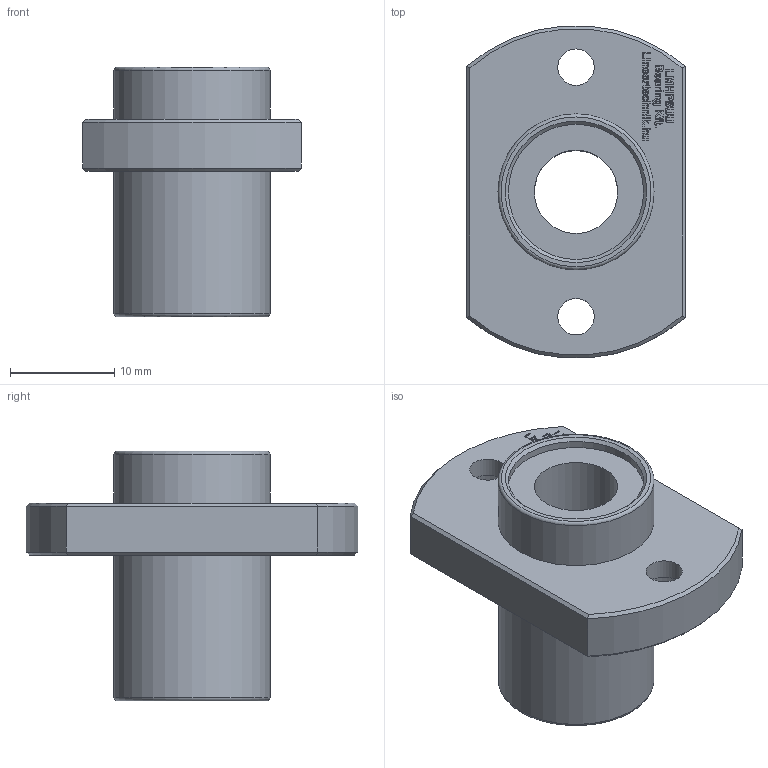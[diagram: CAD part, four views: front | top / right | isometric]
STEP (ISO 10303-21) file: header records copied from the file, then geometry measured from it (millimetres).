
FILE_DESCRIPTION(/* description */ (''),/* implementation_level */ '2;1');
FILE_NAME(/* name */ 'LMHP8UU',/* time_stamp */ '2019-07-09T13:43:30+02:00',/* author */ ('VĂ©gh MĂˇtĂ©'),/* organization */ ('Bearing Kft'),/* preprocessor_version */ 'ST-DEVELOPER v16.7',/* originating_system */ 'DEX',/* authorisation */ $);
FILE_SCHEMA (('AUTOMOTIVE_DESIGN {1 0 10303 214 3 1 1}'));
Length unit declared in the file: millimetre
Products named in the file (1): LMHP8UU
Bounding box: 21 x 31.9 x 24 mm (x, y, z)
Volume: 4860 mm3; surface area: 3210.7 mm2
Topology: 1 solids, 1 shells, 340 faces, 842 edges, 558 vertices
Faces by surface type: plane 254, bspline 65, cylinder 13, cone 6, torus 2
Full cylindrical faces by diameter (mm): 3.5 x2, 6 x2, 8 x1, 13 x2, 15 x2
Entity records: 12512 total; most frequent: CARTESIAN_POINT 4880, ORIENTED_EDGE 1648, DIRECTION 1272, EDGE_CURVE 824, LINE 652, VECTOR 652, VERTEX_POINT 556, EDGE_LOOP 416
